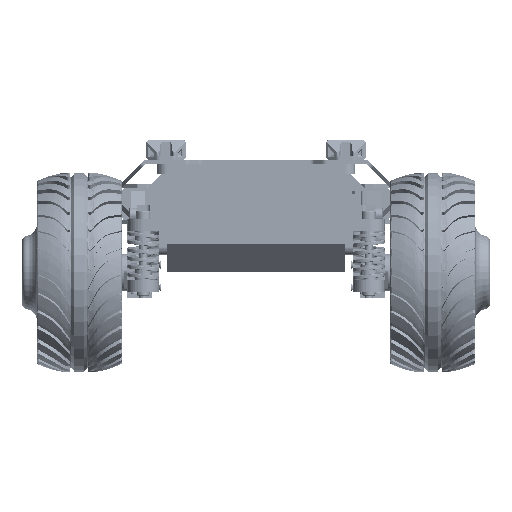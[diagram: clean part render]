
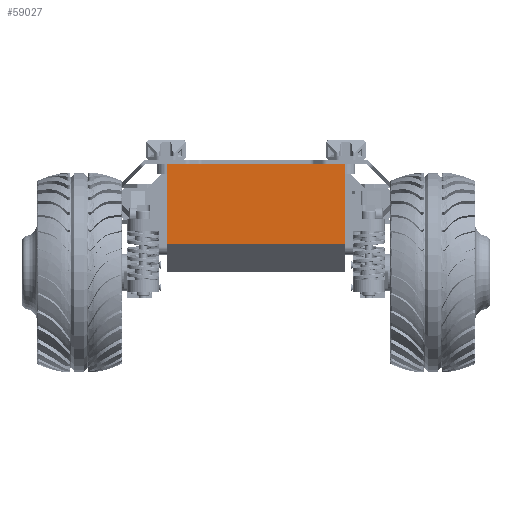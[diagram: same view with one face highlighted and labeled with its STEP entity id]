
A CAD part, front view. The second image highlights one B-rep face of the part: STEP entity #59027.
In plain terms, the highlighted planar face has unit normal (0, -1, 0).
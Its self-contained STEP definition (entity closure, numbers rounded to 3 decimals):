
#6528=PLANE('',#62854);
#7656=FACE_OUTER_BOUND('',#11139,.T.);
#11139=EDGE_LOOP('',(#40216,#40217,#40218,#40219,#40220,#40221));
#14989=LINE('',#79567,#18955);
#14993=LINE('',#79574,#18959);
#14994=LINE('',#79577,#18960);
#14995=LINE('',#79579,#18961);
#14996=LINE('',#79581,#18962);
#14997=LINE('',#79582,#18963);
#18955=VECTOR('',#67303,10.);
#18959=VECTOR('',#67309,10.);
#18960=VECTOR('',#67312,10.);
#18961=VECTOR('',#67313,10.);
#18962=VECTOR('',#67314,10.);
#18963=VECTOR('',#67315,10.);
#24719=VERTEX_POINT('',#79564);
#24720=VERTEX_POINT('',#79566);
#24722=VERTEX_POINT('',#79572);
#24723=VERTEX_POINT('',#79576);
#24724=VERTEX_POINT('',#79578);
#24725=VERTEX_POINT('',#79580);
#30817=EDGE_CURVE('',#24719,#24720,#14989,.T.);
#30821=EDGE_CURVE('',#24722,#24719,#14993,.T.);
#30822=EDGE_CURVE('',#24723,#24722,#14994,.T.);
#30823=EDGE_CURVE('',#24724,#24723,#14995,.T.);
#30824=EDGE_CURVE('',#24725,#24724,#14996,.T.);
#30825=EDGE_CURVE('',#24720,#24725,#14997,.T.);
#40216=ORIENTED_EDGE('',*,*,#30821,.F.);
#40217=ORIENTED_EDGE('',*,*,#30822,.F.);
#40218=ORIENTED_EDGE('',*,*,#30823,.F.);
#40219=ORIENTED_EDGE('',*,*,#30824,.F.);
#40220=ORIENTED_EDGE('',*,*,#30825,.F.);
#40221=ORIENTED_EDGE('',*,*,#30817,.F.);
#59027=ADVANCED_FACE('',(#7656),#6528,.T.);
#62854=AXIS2_PLACEMENT_3D('',#79575,#67310,#67311);
#67303=DIRECTION('',(0.,0.,1.));
#67309=DIRECTION('',(-1.,0.,0.));
#67310=DIRECTION('center_axis',(0.,-1.,0.));
#67311=DIRECTION('ref_axis',(0.,0.,-1.));
#67312=DIRECTION('',(0.,0.,-1.));
#67313=DIRECTION('',(0.,0.,-1.));
#67314=DIRECTION('',(1.,0.,0.));
#67315=DIRECTION('',(0.,0.,1.));
#79564=CARTESIAN_POINT('',(-45.,-100.,5.615));
#79566=CARTESIAN_POINT('',(-45.,-100.,41.));
#79567=CARTESIAN_POINT('',(-45.,-100.,0.));
#79572=CARTESIAN_POINT('',(45.,-100.,5.615));
#79574=CARTESIAN_POINT('',(0.,-100.,5.615));
#79575=CARTESIAN_POINT('Origin',(0.,-100.,46.));
#79576=CARTESIAN_POINT('',(45.,-100.,41.));
#79577=CARTESIAN_POINT('',(45.,-100.,0.));
#79578=CARTESIAN_POINT('',(45.,-100.,46.));
#79579=CARTESIAN_POINT('',(45.,-100.,44.75));
#79580=CARTESIAN_POINT('',(-45.,-100.,46.));
#79581=CARTESIAN_POINT('',(0.,-100.,46.));
#79582=CARTESIAN_POINT('',(-45.,-100.,44.75));
